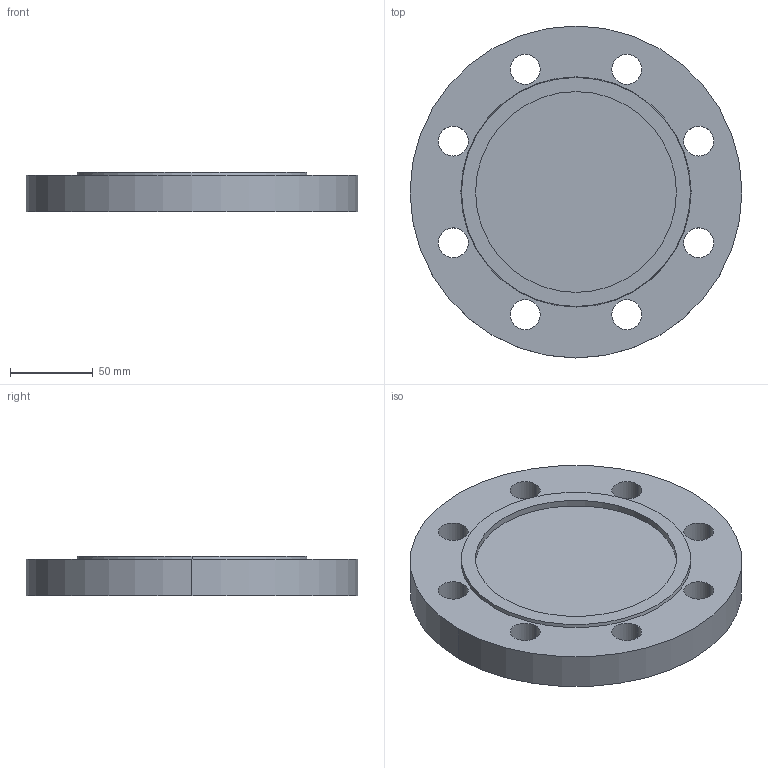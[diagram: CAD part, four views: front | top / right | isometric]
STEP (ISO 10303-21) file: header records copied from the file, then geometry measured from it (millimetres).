
FILE_DESCRIPTION (( 'STEP AP214' ), '1' );
FILE_NAME ('PN40 DN80 Type 05 - Type F Face.STEP', '2019-01-01T19:44:06', ( '' ), ( '' ), 'SwSTEP 2.0', 'SolidWorks 2019', '' );
FILE_SCHEMA (( 'AUTOMOTIVE_DESIGN' ));
Length unit declared in the file: millimetre
Products named in the file (1): PN40 DN80 Type 05 - Type F Face
Bounding box: 200 x 200 x 24 mm (x, y, z)
Volume: 630435.2 mm3; surface area: 84785.9 mm2
Topology: 1 solids, 1 shells, 26 faces, 66 edges, 44 vertices
Faces by surface type: cylinder 20, plane 4, cone 2
Entity records: 880 total; most frequent: DIRECTION 164, CARTESIAN_POINT 137, ORIENTED_EDGE 132, AXIS2_PLACEMENT_3D 71, EDGE_CURVE 66, CIRCLE 44, VERTEX_POINT 44, EDGE_LOOP 44
